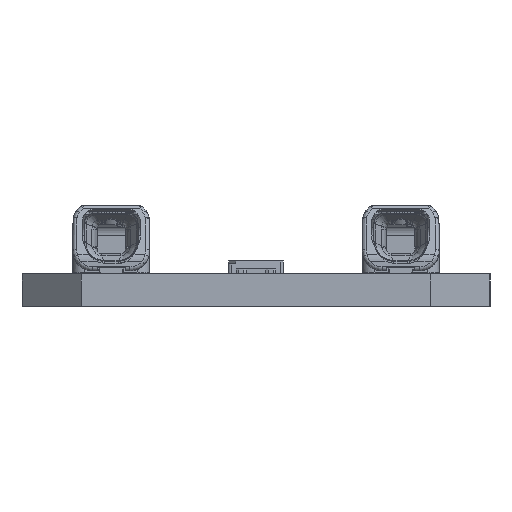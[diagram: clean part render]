
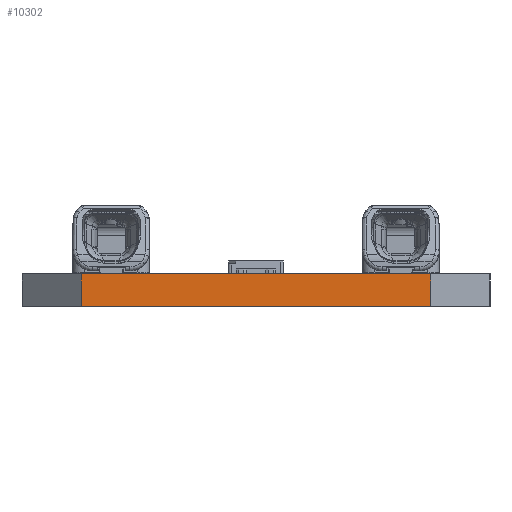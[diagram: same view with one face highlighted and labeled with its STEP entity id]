
A CAD part, left-side view. The second image highlights one B-rep face of the part: STEP entity #10302.
In plain terms, the highlighted planar face has unit normal (-1, 0, 0).
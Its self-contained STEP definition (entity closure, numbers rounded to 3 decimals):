
#1426=DIRECTION('',(0.,0.,1.));
#1427=VECTOR('',#1426,1.65);
#1428=CARTESIAN_POINT('',(-69.5,-8.8,0.));
#1429=LINE('',#1428,#1427);
#1430=DIRECTION('',(0.,1.,0.));
#1431=VECTOR('',#1430,17.6);
#1432=CARTESIAN_POINT('',(-69.5,-8.8,1.65));
#1433=LINE('',#1432,#1431);
#1482=DIRECTION('',(0.,1.,0.));
#1483=VECTOR('',#1482,17.6);
#1484=CARTESIAN_POINT('',(-69.5,-8.8,0.));
#1485=LINE('',#1484,#1483);
#1612=DIRECTION('',(0.,0.,1.));
#1613=VECTOR('',#1612,1.65);
#1614=CARTESIAN_POINT('',(-69.5,8.8,0.));
#1615=LINE('',#1614,#1613);
#7668=CARTESIAN_POINT('',(-69.5,-8.8,0.));
#7669=CARTESIAN_POINT('',(-69.5,8.8,0.));
#7670=VERTEX_POINT('',#7668);
#7671=VERTEX_POINT('',#7669);
#7692=CARTESIAN_POINT('',(-69.5,-8.8,1.65));
#7694=VERTEX_POINT('',#7692);
#7750=CARTESIAN_POINT('',(-69.5,8.8,1.65));
#7751=VERTEX_POINT('',#7750);
#10288=CARTESIAN_POINT('',(-69.5,8.8,1.65));
#10289=DIRECTION('',(-1.,0.,0.));
#10290=DIRECTION('',(0.,0.,1.));
#10291=AXIS2_PLACEMENT_3D('',#10288,#10289,#10290);
#10292=PLANE('',#10291);
#10294=ORIENTED_EDGE('',*,*,#10293,.F.);
#10296=ORIENTED_EDGE('',*,*,#10295,.T.);
#10298=ORIENTED_EDGE('',*,*,#10297,.T.);
#10299=ORIENTED_EDGE('',*,*,#9706,.F.);
#10300=EDGE_LOOP('',(#10294,#10296,#10298,#10299));
#10301=FACE_OUTER_BOUND('',#10300,.F.);
#10302=ADVANCED_FACE('',(#10301),#10292,.T.);
#9706=EDGE_CURVE('',#7694,#7751,#1433,.T.);
#10293=EDGE_CURVE('',#7670,#7694,#1429,.T.);
#10295=EDGE_CURVE('',#7670,#7671,#1485,.T.);
#10297=EDGE_CURVE('',#7671,#7751,#1615,.T.);
